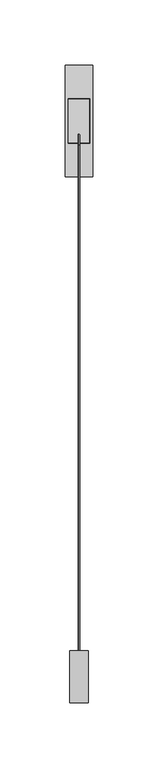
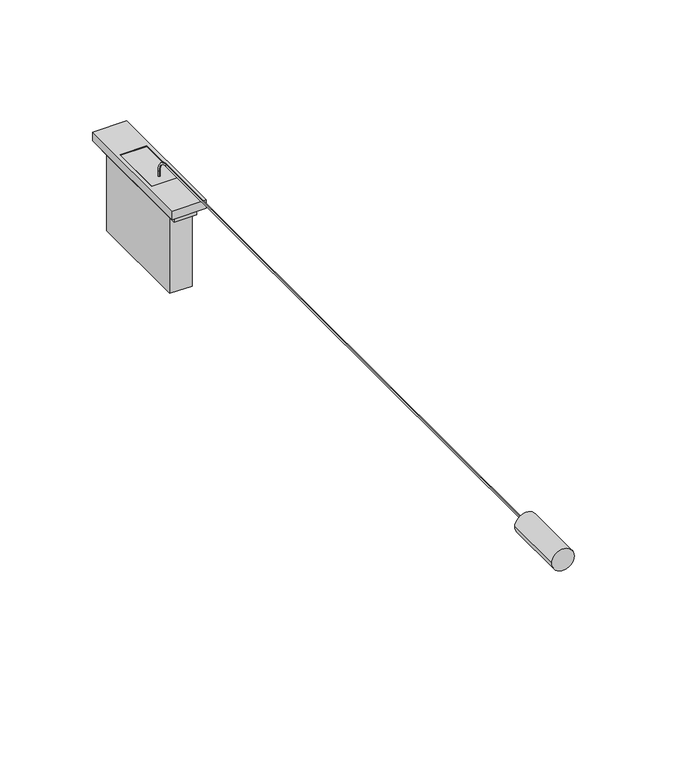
"""IFC4 building model written with IfcOpenShell, lengths in millimetres: proxy geometry, BT_LN-PulsanteATirante : Pulsante a tirante - Art. KM4033 - 1M - Cover Sabbia."""

from ifc_helpers import new_model, si_unit, point, frame, frame_2d, origin, origin_with_axes, place, context, project, spatial, polyline, circle_curve, ellipse_curve, trimmed, segment, composite_curve, outline, extrude, source, transform, mapped, element, save
from ifc_brep_helpers import plane_surface, cylinder_surface, revolved_surface, advanced_brep


def electrical_fixtures_a790ef4b(model_context):
    return source(origin(), model_context, "Body", "SolidModel", [
        advanced_brep(
        [(0.0, -407.5789316, 72.1974154), (0.0, -407.5789316, 73.1974154), (0.0, -18.6161148, 72.1974154), (0.0, -18.6161148, 73.1974154), (0.0, -10.1161148, 64.6974154), (0.0, -11.1161148, 64.6974154), (0.0, -11.1161148, 61.0), (0.0, -10.1161148, 61.0)],
        [
            (0, 1, circle_curve(frame((0.0, -407.5789316, 72.6974154), z_axis=(0.0, -1.0, 0.0), x_axis=(0.0, 0.0, 1.0)), 0.5)),
            (1, 0, circle_curve(frame((0.0, -407.5789316, 72.6974154), z_axis=(0.0, -1.0, 0.0), x_axis=(0.0, 0.0, 1.0)), 0.5)),
            (0, 2),
            (2, 3, circle_curve(frame((0.0, -18.6161148, 72.6974154), z_axis=(0.0, -1.0, 0.0), x_axis=(0.0, 0.0, 1.0)), 0.5)),
            (3, 1),
            (3, 2, circle_curve(frame((0.0, -18.6161148, 72.6974154), z_axis=(0.0, -1.0, 0.0), x_axis=(0.0, 0.0, 1.0)), 0.5)),
            (4, 3, circle_curve(frame((0.0, -18.6161148, 64.6974154), z_axis=(1.0, 0.0, 0.0), x_axis=(0.0, 0.0, 1.0)), 8.5)),
            (2, 5, circle_curve(frame((0.0, -18.6161148, 64.6974154), z_axis=(-1.0, 0.0, 0.0), x_axis=(0.0, 0.0, 1.0)), 7.5)),
            (5, 4, circle_curve(frame((0.0, -10.6161148, 64.6974154), z_axis=(0.0, 0.0, 1.0), x_axis=(0.0, 1.0, 0.0)), 0.5)),
            (4, 5, circle_curve(frame((0.0, -10.6161148, 64.6974154), z_axis=(0.0, 0.0, 1.0), x_axis=(0.0, 1.0, 0.0)), 0.5)),
            (6, 7, circle_curve(frame((0.0, -10.6161148, 61.0), z_axis=(0.0, 0.0, -1.0), x_axis=(0.0, 1.0, 0.0)), 0.5)),
            (7, 6, circle_curve(frame((0.0, -10.6161148, 61.0), z_axis=(0.0, 0.0, -1.0), x_axis=(0.0, 1.0, 0.0)), 0.5)),
            (5, 6),
            (7, 4),
        ],
        [
            plane_surface(frame((0.0, -407.5789316, 72.6974154), z_axis=(0.0, -1.0, 0.0), x_axis=(1.0, 0.0, 0.0))),
            cylinder_surface(frame((0.0, -407.5789316, 72.6974154), z_axis=(0.0, -1.0, 0.0), x_axis=(0.0, 0.0, 1.0)), 0.5),
            revolved_surface(trimmed(ellipse_curve(frame((0.0, -18.6161148, 72.6974154), z_axis=(0.0, -1.0, 0.0), x_axis=(0.0, 0.0, 1.0)), 0.5, 0.5), [point((0.0, -18.6161148, 72.1974154))], [point((0.0, -18.6161148, 73.1974154))], True, "CARTESIAN"), (0.0, -18.6161148, 64.6974154), (-1.0, 0.0, 0.0)),
            revolved_surface(trimmed(ellipse_curve(frame((0.0, -18.6161148, 72.6974154), z_axis=(0.0, -1.0, 0.0), x_axis=(0.0, 0.0, 1.0)), 0.5, 0.5), [point((0.0, -18.6161148, 73.1974154))], [point((0.0, -18.6161148, 72.1974154))], True, "CARTESIAN"), (0.0, -18.6161148, 64.6974154), (-1.0, 0.0, 0.0)),
            plane_surface(frame((0.0, -10.6161148, 61.0), z_axis=(0.0, 0.0, -1.0), x_axis=(1.0, 0.0, 0.0))),
            cylinder_surface(frame((0.0, -10.6161148, 64.6974154), z_axis=(0.0, 0.0, 1.0), x_axis=(0.0, 1.0, 0.0)), 0.5),
        ],
        [
            (0, [[1, 2]]),
            (1, [[-1, 3, 4, 5]]),
            (1, [[-2, -5, 6, -3]]),
            (2, [[7, -4, 8, 9]]),
            (3, [[-8, -6, -7, 10]]),
            (4, [[11, 12]]),
            (5, [[-9, 13, -12, 14]]),
            (5, [[-10, -14, -11, -13]]),
        ],
    ),
        extrude(outline(composite_curve([segment(trimmed(circle_curve(frame_2d((72.6974154, 0.0)), 7.0), [point((72.6974154, -7.0))], [point((72.6974154, 7.0))], False, "CARTESIAN"), True, "CONTINUOUS"), segment(trimmed(circle_curve(frame_2d((72.6974154, 0.0)), 7.0), [point((72.6974154, 7.0))], [point((72.6974154, -7.0))], False, "CARTESIAN"), True, "CONTINUOUS")], self_intersect=False)), frame((0.0, -447.5789316, 0.0), z_axis=(0.0, 1.0, 0.0), x_axis=(0.0, 0.0, 1.0)), (0.0, 0.0, 1.0), 40.0),
        extrude(outline(polyline([(-8.0433174, -16.8017303), (-8.0433174, 16.8017303), (8.0433174, 16.8017303), (8.0433174, -16.8017303), (-8.0433174, -16.8017303)])), frame((0.0, 0.0, 55.5), z_axis=(0.0, 0.0, 1.0), x_axis=(1.0, 0.0, 0.0)), (0.0, 0.0, 1.0), 5.2),
        extrude(outline(polyline([(-10.7, -43.0), (-10.7, 43.0), (10.7, 43.0), (10.7, -43.0), (-10.7, -43.0)]), holes=[polyline([(-8.3433174, -17.1017303), (8.3433174, -17.1017303), (8.3433174, 17.1017303), (-8.3433174, 17.1017303), (-8.3433174, -17.1017303)])]), frame((0.0, 0.0, 55.5), z_axis=(0.0, 0.0, 1.0), x_axis=(1.0, 0.0, 0.0)), (0.0, 0.0, 1.0), 5.5),
        extrude(outline(polyline([(-7.0, 39.0), (7.0, 39.0), (7.0, -39.0), (-7.0, -39.0), (-7.0, 39.0)])), frame((0.0, 0.0, 50.0), z_axis=(0.0, 0.0, 1.0), x_axis=(1.0, 0.0, 0.0)), (0.0, 0.0, 1.0), 5.5),
        extrude(outline(polyline([(-7.0, 34.0), (7.0, 34.0), (7.0, -34.0), (-7.0, -34.0), (-7.0, 34.0)])), origin_with_axes(), (0.0, 0.0, 1.0), 50.0),
    ])


if __name__ == "__main__":
    model = new_model("IFC4")
    model_context = context("Model", 3, world=origin())
    ifc_project = project(units=[si_unit("LENGTHUNIT", "METRE", prefix="MILLI")], contexts=[model_context])
    site = spatial("IfcSite", under=ifc_project)
    building = spatial("IfcBuilding", under=site)
    placement = place(None, origin())
    electrical_fixtures_shape = electrical_fixtures_a790ef4b(model_context)
    element("IfcBuildingElementProxy", 1, Name="BT_LN-PulsanteATirante : Pulsante a tirante - Art. KM4033 - 1M - Cover Sabbia", ObjectType="BT_LN-PulsanteATirante : Pulsante a tirante - Art. KM4033 - 1M - Cover Sabbia", at=placement, inside=building, context=model_context, shape_type="MappedRepresentation", body=[
        mapped(electrical_fixtures_shape, transform((0.0, 0.0, 0.0), x_axis=(1.0, 0.0, 0.0), y_axis=(0.0, 1.0, 0.0), z_axis=(0.0, 0.0, 1.0))),
    ])
    save(model, "model.ifc")
